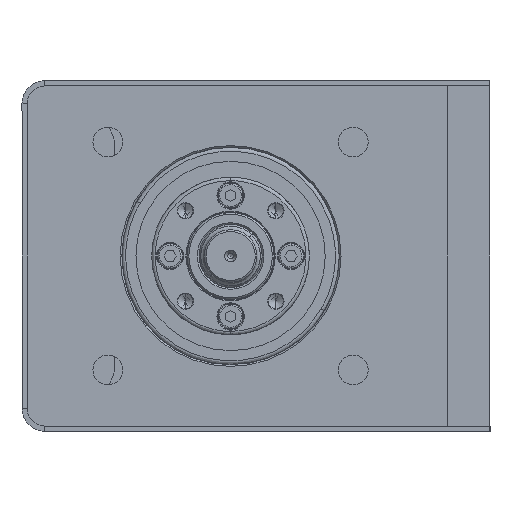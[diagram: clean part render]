
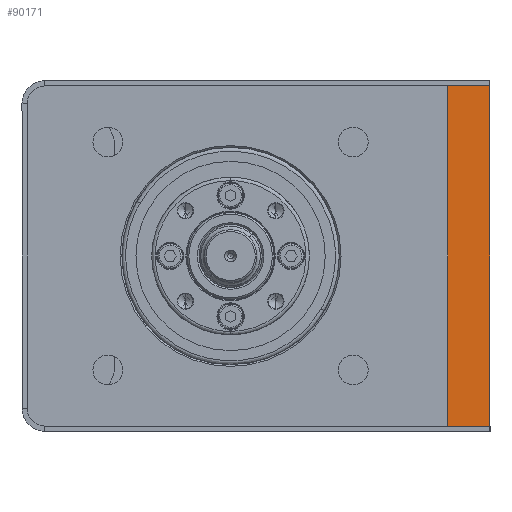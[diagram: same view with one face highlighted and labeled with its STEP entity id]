
A CAD part, left-side view. The second image highlights one B-rep face of the part: STEP entity #90171.
In plain terms, the highlighted planar face has unit normal (-1, 0, 0).
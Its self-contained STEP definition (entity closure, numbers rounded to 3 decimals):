
#1910 = LINE ( 'NONE', #70114, #130448 ) ;
#6295 = DIRECTION ( 'NONE',  ( 0., 0., 1. ) ) ;
#6656 = ORIENTED_EDGE ( 'NONE', *, *, #34590, .F. ) ;
#7229 = DIRECTION ( 'NONE',  ( 0., 0., 1. ) ) ;
#14184 = VERTEX_POINT ( 'NONE', #132826 ) ;
#17767 = ORIENTED_EDGE ( 'NONE', *, *, #132717, .F. ) ;
#25889 = VERTEX_POINT ( 'NONE', #51920 ) ;
#28791 = PLANE ( 'NONE',  #53262 ) ;
#28935 = EDGE_CURVE ( 'NONE', #85525, #41292, #75029, .T. ) ;
#29003 = CARTESIAN_POINT ( 'NONE',  ( -150.397, -21.483, -48.5 ) ) ;
#34590 = EDGE_CURVE ( 'NONE', #25889, #14184, #1910, .T. ) ;
#41292 = VERTEX_POINT ( 'NONE', #29003 ) ;
#42859 = VECTOR ( 'NONE', #128606, 1000. ) ;
#43763 = VECTOR ( 'NONE', #6295, 1000. ) ;
#44034 = CARTESIAN_POINT ( 'NONE',  ( -150.397, -9.483, -48.5 ) ) ;
#51348 = LINE ( 'NONE', #90779, #43763 ) ;
#51920 = CARTESIAN_POINT ( 'NONE',  ( -150.397, -9.483, 48.5 ) ) ;
#53126 = DIRECTION ( 'NONE',  ( 1., 0., 0. ) ) ;
#53262 = AXIS2_PLACEMENT_3D ( 'NONE', #113397, #53126, #137750 ) ;
#70114 = CARTESIAN_POINT ( 'NONE',  ( -150.397, -9.483, 48.5 ) ) ;
#75029 = LINE ( 'NONE', #44034, #42859 ) ;
#83270 = CARTESIAN_POINT ( 'NONE',  ( -150.397, -9.483, -48.5 ) ) ;
#85525 = VERTEX_POINT ( 'NONE', #83270 ) ;
#90171 = ADVANCED_FACE ( 'NONE', ( #124578 ), #28791, .F. ) ;
#90779 = CARTESIAN_POINT ( 'NONE',  ( -150.397, -21.483, -48.5 ) ) ;
#103314 = CARTESIAN_POINT ( 'NONE',  ( -150.397, -9.483, -48.5 ) ) ;
#110497 = EDGE_CURVE ( 'NONE', #41292, #14184, #51348, .T. ) ;
#113397 = CARTESIAN_POINT ( 'NONE',  ( -150.397, -9.483, -48.5 ) ) ;
#114459 = VECTOR ( 'NONE', #7229, 1000. ) ;
#115606 = ORIENTED_EDGE ( 'NONE', *, *, #28935, .T. ) ;
#123982 = ORIENTED_EDGE ( 'NONE', *, *, #110497, .T. ) ;
#124578 = FACE_OUTER_BOUND ( 'NONE', #136017, .T. ) ;
#128606 = DIRECTION ( 'NONE',  ( 0., -1., 0. ) ) ;
#130448 = VECTOR ( 'NONE', #154829, 1000. ) ;
#132717 = EDGE_CURVE ( 'NONE', #85525, #25889, #146733, .T. ) ;
#132826 = CARTESIAN_POINT ( 'NONE',  ( -150.397, -21.483, 48.5 ) ) ;
#136017 = EDGE_LOOP ( 'NONE', ( #123982, #6656, #17767, #115606 ) ) ;
#137750 = DIRECTION ( 'NONE',  ( 0., 0., -1. ) ) ;
#146733 = LINE ( 'NONE', #103314, #114459 ) ;
#154829 = DIRECTION ( 'NONE',  ( 0., -1., 0. ) ) ;
